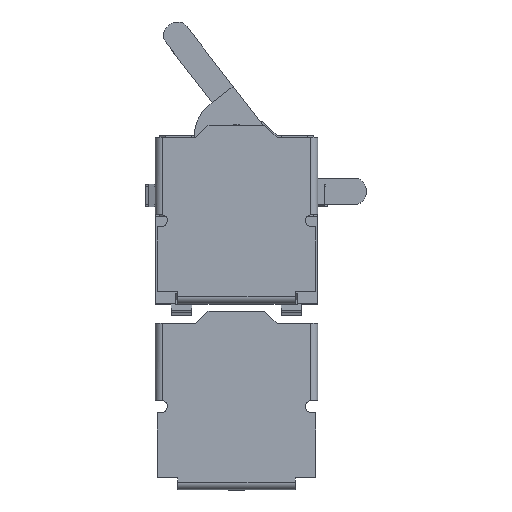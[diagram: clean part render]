
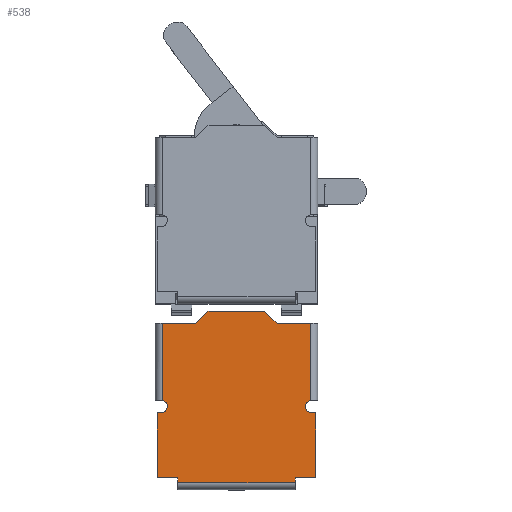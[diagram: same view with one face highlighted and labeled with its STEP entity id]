
A CAD part, top view. The second image highlights one B-rep face of the part: STEP entity #538.
In plain terms, the highlighted planar face has unit normal (0, 0, 1).
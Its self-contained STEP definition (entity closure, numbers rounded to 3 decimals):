
#538 = ADVANCED_FACE( '', ( #1069 ), #1070, .F. );
#1069 = FACE_OUTER_BOUND( '', #1629, .T. );
#1070 = PLANE( '', #1630 );
#1629 = EDGE_LOOP( '', ( #3037, #3038, #3039, #3040, #3041, #3042, #3043, #3044, #3045, #3046, #3047, #3048, #3049, #3050, #3051, #3052, #3053, #3054 ) );
#1630 = AXIS2_PLACEMENT_3D( '', #3055, #3056, #3057 );
#3037 = ORIENTED_EDGE( '', *, *, #3907, .F. );
#3038 = ORIENTED_EDGE( '', *, *, #3429, .T. );
#3039 = ORIENTED_EDGE( '', *, *, #3413, .F. );
#3040 = ORIENTED_EDGE( '', *, *, #3940, .F. );
#3041 = ORIENTED_EDGE( '', *, *, #3941, .F. );
#3042 = ORIENTED_EDGE( '', *, *, #3848, .T. );
#3043 = ORIENTED_EDGE( '', *, *, #3453, .T. );
#3044 = ORIENTED_EDGE( '', *, *, #3918, .F. );
#3045 = ORIENTED_EDGE( '', *, *, #3766, .T. );
#3046 = ORIENTED_EDGE( '', *, *, #3666, .T. );
#3047 = ORIENTED_EDGE( '', *, *, #3525, .T. );
#3048 = ORIENTED_EDGE( '', *, *, #3559, .F. );
#3049 = ORIENTED_EDGE( '', *, *, #3710, .F. );
#3050 = ORIENTED_EDGE( '', *, *, #3674, .T. );
#3051 = ORIENTED_EDGE( '', *, *, #3487, .T. );
#3052 = ORIENTED_EDGE( '', *, *, #3835, .T. );
#3053 = ORIENTED_EDGE( '', *, *, #3904, .F. );
#3054 = ORIENTED_EDGE( '', *, *, #3778, .F. );
#3055 = CARTESIAN_POINT( '', ( 5.1, -6.973, 0. ) );
#3056 = DIRECTION( '', ( 0., 0., -1. ) );
#3057 = DIRECTION( '', ( -1., 0., 0. ) );
#3413 = EDGE_CURVE( '', #4092, #4093, #4094, .T. );
#3429 = EDGE_CURVE( '', #4121, #4093, #4122, .F. );
#3453 = EDGE_CURVE( '', #4161, #4162, #4163, .T. );
#3487 = EDGE_CURVE( '', #4222, #4223, #4224, .T. );
#3525 = EDGE_CURVE( '', #4289, #4290, #4291, .T. );
#3559 = EDGE_CURVE( '', #4347, #4290, #4348, .T. );
#3666 = EDGE_CURVE( '', #4514, #4289, #4515, .T. );
#3674 = EDGE_CURVE( '', #4525, #4222, #4526, .F. );
#3710 = EDGE_CURVE( '', #4525, #4347, #4580, .T. );
#3766 = EDGE_CURVE( '', #4655, #4514, #4656, .T. );
#3778 = EDGE_CURVE( '', #4673, #4674, #4675, .T. );
#3835 = EDGE_CURVE( '', #4223, #4756, #4757, .T. );
#3848 = EDGE_CURVE( '', #4774, #4161, #4775, .T. );
#3904 = EDGE_CURVE( '', #4674, #4756, #4843, .T. );
#3907 = EDGE_CURVE( '', #4121, #4673, #4846, .T. );
#3918 = EDGE_CURVE( '', #4655, #4162, #4859, .F. );
#3940 = EDGE_CURVE( '', #4885, #4092, #4886, .T. );
#3941 = EDGE_CURVE( '', #4774, #4885, #4887, .T. );
#4092 = VERTEX_POINT( '', #5084 );
#4093 = VERTEX_POINT( '', #5085 );
#4094 = LINE( '', #5086, #5087 );
#4121 = VERTEX_POINT( '', #5123 );
#4122 = LINE( '', #5124, #5125 );
#4161 = VERTEX_POINT( '', #5181 );
#4162 = VERTEX_POINT( '', #5182 );
#4163 = LINE( '', #5183, #5184 );
#4222 = VERTEX_POINT( '', #5266 );
#4223 = VERTEX_POINT( '', #5267 );
#4224 = LINE( '', #5268, #5269 );
#4289 = VERTEX_POINT( '', #5361 );
#4290 = VERTEX_POINT( '', #5362 );
#4291 = LINE( '', #5363, #5364 );
#4347 = VERTEX_POINT( '', #5446 );
#4348 = LINE( '', #5447, #5448 );
#4514 = VERTEX_POINT( '', #5692 );
#4515 = LINE( '', #5693, #5694 );
#4525 = VERTEX_POINT( '', #5709 );
#4526 = LINE( '', #5710, #5711 );
#4580 = LINE( '', #5791, #5792 );
#4655 = VERTEX_POINT( '', #5905 );
#4656 = CIRCLE( '', #5906, 0.15 );
#4673 = VERTEX_POINT( '', #5933 );
#4674 = VERTEX_POINT( '', #5934 );
#4675 = LINE( '', #5935, #5936 );
#4756 = VERTEX_POINT( '', #6057 );
#4757 = LINE( '', #6058, #6059 );
#4774 = VERTEX_POINT( '', #6082 );
#4775 = LINE( '', #6083, #6084 );
#4843 = LINE( '', #6183, #6184 );
#4846 = CIRCLE( '', #6188, 0.15 );
#4859 = LINE( '', #6204, #6205 );
#4885 = VERTEX_POINT( '', #6241 );
#4886 = LINE( '', #6242, #6243 );
#4887 = LINE( '', #6244, #6245 );
#5084 = CARTESIAN_POINT( '', ( 1., -2.873, 0. ) );
#5085 = CARTESIAN_POINT( '', ( 1.82, -2.873, 0. ) );
#5086 = CARTESIAN_POINT( '', ( 1., -2.873, 0. ) );
#5087 = VECTOR( '', #6363, 1000. );
#5123 = CARTESIAN_POINT( '', ( 1.82, -4.776, 0. ) );
#5124 = CARTESIAN_POINT( '', ( 1.82, -6.973, 0. ) );
#5125 = VECTOR( '', #6385, 1000. );
#5181 = CARTESIAN_POINT( '', ( -1., -2.873, 0. ) );
#5182 = CARTESIAN_POINT( '', ( -1.82, -2.873, 0. ) );
#5183 = CARTESIAN_POINT( '', ( -1., -2.873, 0. ) );
#5184 = VECTOR( '', #6409, 1000. );
#5266 = CARTESIAN_POINT( '', ( 1.45, -6.793, 0. ) );
#5267 = CARTESIAN_POINT( '', ( 1.45, -6.673, 0. ) );
#5268 = CARTESIAN_POINT( '', ( 1.45, -6.973, 0. ) );
#5269 = VECTOR( '', #6448, 1000. );
#5361 = CARTESIAN_POINT( '', ( -1.95, -5.073, 0. ) );
#5362 = CARTESIAN_POINT( '', ( -1.95, -6.673, 0. ) );
#5363 = CARTESIAN_POINT( '', ( -1.95, -6.973, 0. ) );
#5364 = VECTOR( '', #6488, 1000. );
#5446 = CARTESIAN_POINT( '', ( -1.45, -6.673, 0. ) );
#5447 = CARTESIAN_POINT( '', ( -1.45, -6.673, 0. ) );
#5448 = VECTOR( '', #6521, 1000. );
#5692 = CARTESIAN_POINT( '', ( -1.85, -5.073, 0. ) );
#5693 = CARTESIAN_POINT( '', ( -1.85, -5.073, 0. ) );
#5694 = VECTOR( '', #6618, 1000. );
#5709 = CARTESIAN_POINT( '', ( -1.45, -6.793, 0. ) );
#5710 = CARTESIAN_POINT( '', ( 5.1, -6.793, 0. ) );
#5711 = VECTOR( '', #6624, 1000. );
#5791 = CARTESIAN_POINT( '', ( -1.45, -6.973, 0. ) );
#5792 = VECTOR( '', #6660, 1000. );
#5905 = CARTESIAN_POINT( '', ( -1.82, -4.776, 0. ) );
#5906 = AXIS2_PLACEMENT_3D( '', #6708, #6709, #6710 );
#5933 = CARTESIAN_POINT( '', ( 1.85, -5.073, 0. ) );
#5934 = CARTESIAN_POINT( '', ( 1.95, -5.073, 0. ) );
#5935 = CARTESIAN_POINT( '', ( 1.85, -5.073, 0. ) );
#5936 = VECTOR( '', #6718, 1000. );
#6057 = CARTESIAN_POINT( '', ( 1.95, -6.673, 0. ) );
#6058 = CARTESIAN_POINT( '', ( 1.45, -6.673, 0. ) );
#6059 = VECTOR( '', #6768, 1000. );
#6082 = CARTESIAN_POINT( '', ( -0.7, -2.573, 0. ) );
#6083 = CARTESIAN_POINT( '', ( -0.7, -2.573, 0. ) );
#6084 = VECTOR( '', #6781, 1000. );
#6183 = CARTESIAN_POINT( '', ( 1.95, -6.973, 0. ) );
#6184 = VECTOR( '', #6819, 1000. );
#6188 = AXIS2_PLACEMENT_3D( '', #6821, #6822, #6823 );
#6204 = CARTESIAN_POINT( '', ( -1.82, -6.973, 0. ) );
#6205 = VECTOR( '', #6833, 1000. );
#6241 = CARTESIAN_POINT( '', ( 0.7, -2.573, 0. ) );
#6242 = CARTESIAN_POINT( '', ( 0.7, -2.573, 0. ) );
#6243 = VECTOR( '', #6847, 1000. );
#6244 = CARTESIAN_POINT( '', ( 0., -2.573, 0. ) );
#6245 = VECTOR( '', #6848, 1000. );
#6363 = DIRECTION( '', ( 1., 0., 0. ) );
#6385 = DIRECTION( '', ( 0., -1., 0. ) );
#6409 = DIRECTION( '', ( -1., 0., 0. ) );
#6448 = DIRECTION( '', ( 0., 1., 0. ) );
#6488 = DIRECTION( '', ( 0., -1., 0. ) );
#6521 = DIRECTION( '', ( -1., 0., 0. ) );
#6618 = DIRECTION( '', ( -1., 0., 0. ) );
#6624 = DIRECTION( '', ( -1., 0., 0. ) );
#6660 = DIRECTION( '', ( 0., 1., 0. ) );
#6708 = CARTESIAN_POINT( '', ( -1.85, -4.923, 0. ) );
#6709 = DIRECTION( '', ( 0., 0., -1. ) );
#6710 = DIRECTION( '', ( 0., 1., 0. ) );
#6718 = DIRECTION( '', ( 1., 0., 0. ) );
#6768 = DIRECTION( '', ( 1., 0., 0. ) );
#6781 = DIRECTION( '', ( -0.707, -0.707, 0. ) );
#6819 = DIRECTION( '', ( 0., -1., 0. ) );
#6821 = CARTESIAN_POINT( '', ( 1.85, -4.923, 0. ) );
#6822 = DIRECTION( '', ( 0., 0., 1. ) );
#6823 = DIRECTION( '', ( 0., 1., 0. ) );
#6833 = DIRECTION( '', ( 0., -1., 0. ) );
#6847 = DIRECTION( '', ( 0.707, -0.707, 0. ) );
#6848 = DIRECTION( '', ( 1., 0., 0. ) );
